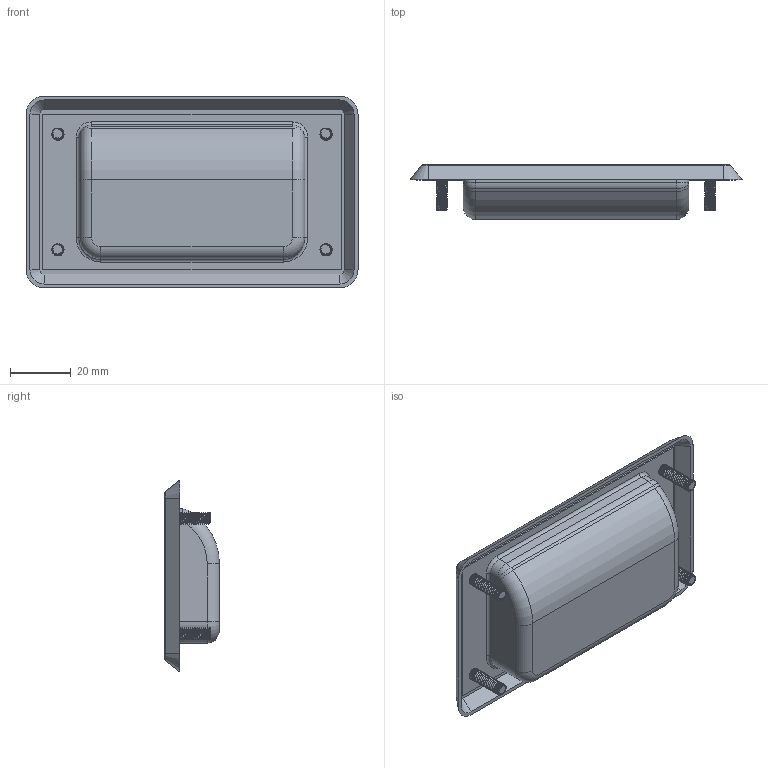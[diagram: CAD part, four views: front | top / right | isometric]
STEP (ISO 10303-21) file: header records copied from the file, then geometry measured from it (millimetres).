
FILE_DESCRIPTION (( 'STEP AP203' ), '1' );
FILE_NAME ('SK4-028-2.STEP', '2018-11-02T05:19:38', ( 'admin' ), ( 'Microsoft' ), 'SwSTEP 2.0', 'SolidWorks 2015', '' );
FILE_SCHEMA (( 'CONFIG_CONTROL_DESIGN' ));
Length unit declared in the file: millimetre
Products named in the file (3): SK4-028-2囀; SK4-028-2
Assembly tree (2 placements, depth 2):
  SK4-028-2
    SK4-028-2
    SK4-028-2囀
Bounding box: 109 x 18 x 63 mm (x, y, z)
Volume: 10270.3 mm3; surface area: 29230.6 mm2
Topology: 2 solids, 2 shells, 367 faces, 1012 edges, 656 vertices
Faces by surface type: cylinder 209, bspline 68, plane 58, torus 20, cone 8, sphere 4
Entity records: 55177 total; most frequent: CARTESIAN_POINT 46890, ORIENTED_EDGE 2024, DIRECTION 1222, EDGE_CURVE 1012, VERTEX_POINT 656, AXIS2_PLACEMENT_3D 440, EDGE_LOOP 384, B_SPLINE_CURVE_WITH_KNOTS 382
